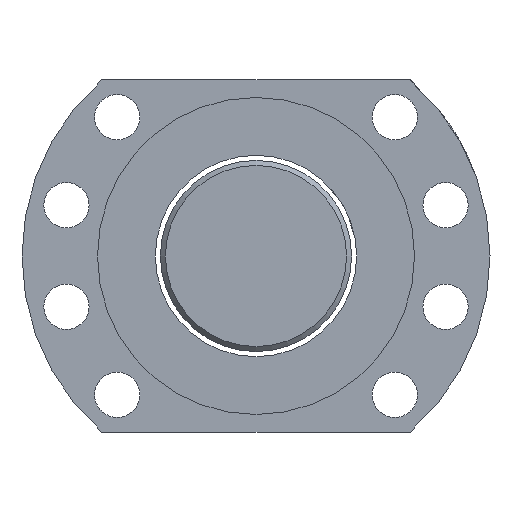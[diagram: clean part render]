
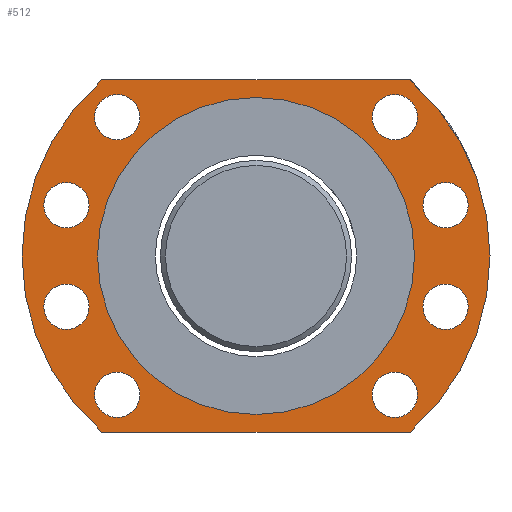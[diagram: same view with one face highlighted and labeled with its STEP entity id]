
A CAD part, left-side view. The second image highlights one B-rep face of the part: STEP entity #512.
In plain terms, the highlighted planar face has unit normal (-1, 0, 0).
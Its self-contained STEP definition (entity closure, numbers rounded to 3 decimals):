
#61=LINE('',#864,#69);
#64=LINE('',#870,#72);
#69=VECTOR('',#706,1000.);
#72=VECTOR('',#711,1000.);
#81=PLANE('',#602);
#156=ORIENTED_EDGE('',*,*,#229,.T.);
#157=ORIENTED_EDGE('',*,*,#231,.F.);
#158=ORIENTED_EDGE('',*,*,#235,.T.);
#159=ORIENTED_EDGE('',*,*,#253,.F.);
#160=ORIENTED_EDGE('',*,*,#250,.T.);
#161=ORIENTED_EDGE('',*,*,#247,.T.);
#162=ORIENTED_EDGE('',*,*,#217,.T.);
#163=ORIENTED_EDGE('',*,*,#244,.T.);
#164=ORIENTED_EDGE('',*,*,#243,.F.);
#165=ORIENTED_EDGE('',*,*,#241,.F.);
#166=ORIENTED_EDGE('',*,*,#239,.F.);
#167=ORIENTED_EDGE('',*,*,#237,.T.);
#168=ORIENTED_EDGE('',*,*,#233,.T.);
#217=EDGE_CURVE('',#271,#272,#316,.T.);
#229=EDGE_CURVE('',#283,#283,#322,.T.);
#231=EDGE_CURVE('',#285,#285,#324,.T.);
#233=EDGE_CURVE('',#287,#287,#326,.T.);
#235=EDGE_CURVE('',#289,#289,#328,.T.);
#237=EDGE_CURVE('',#291,#291,#330,.T.);
#239=EDGE_CURVE('',#293,#293,#332,.T.);
#241=EDGE_CURVE('',#295,#295,#334,.T.);
#243=EDGE_CURVE('',#297,#297,#336,.T.);
#244=EDGE_CURVE('',#272,#298,#61,.T.);
#247=EDGE_CURVE('',#300,#271,#64,.T.);
#250=EDGE_CURVE('',#298,#300,#337,.T.);
#253=EDGE_CURVE('',#303,#303,#340,.T.);
#271=VERTEX_POINT('',#782);
#272=VERTEX_POINT('',#783);
#283=VERTEX_POINT('',#827);
#285=VERTEX_POINT('',#832);
#287=VERTEX_POINT('',#837);
#289=VERTEX_POINT('',#842);
#291=VERTEX_POINT('',#847);
#293=VERTEX_POINT('',#852);
#295=VERTEX_POINT('',#857);
#297=VERTEX_POINT('',#862);
#298=VERTEX_POINT('',#865);
#300=VERTEX_POINT('',#871);
#303=VERTEX_POINT('',#882);
#316=CIRCLE('',#561,46.5);
#322=CIRCLE('',#569,4.5);
#324=CIRCLE('',#572,4.5);
#326=CIRCLE('',#575,4.5);
#328=CIRCLE('',#578,4.5);
#330=CIRCLE('',#581,4.5);
#332=CIRCLE('',#584,4.5);
#334=CIRCLE('',#587,4.5);
#336=CIRCLE('',#590,4.5);
#337=CIRCLE('',#594,46.5);
#340=CIRCLE('',#598,31.5);
#382=EDGE_LOOP('',(#156));
#383=EDGE_LOOP('',(#157));
#384=EDGE_LOOP('',(#158));
#385=EDGE_LOOP('',(#159));
#386=EDGE_LOOP('',(#160,#161,#162,#163));
#387=EDGE_LOOP('',(#164));
#388=EDGE_LOOP('',(#165));
#389=EDGE_LOOP('',(#166));
#390=EDGE_LOOP('',(#167));
#391=EDGE_LOOP('',(#168));
#453=FACE_BOUND('',#382,.T.);
#454=FACE_BOUND('',#383,.T.);
#455=FACE_BOUND('',#384,.T.);
#456=FACE_BOUND('',#385,.T.);
#457=FACE_BOUND('',#386,.T.);
#458=FACE_BOUND('',#387,.T.);
#459=FACE_BOUND('',#388,.T.);
#460=FACE_BOUND('',#389,.T.);
#461=FACE_BOUND('',#390,.T.);
#462=FACE_BOUND('',#391,.T.);
#512=ADVANCED_FACE('',(#453,#454,#455,#456,#457,#458,#459,#460,#461,#462),
#81,.T.);
#561=AXIS2_PLACEMENT_3D('',#781,#642,#643);
#569=AXIS2_PLACEMENT_3D('',#826,#660,#661);
#572=AXIS2_PLACEMENT_3D('',#831,#666,#667);
#575=AXIS2_PLACEMENT_3D('',#836,#672,#673);
#578=AXIS2_PLACEMENT_3D('',#841,#678,#679);
#581=AXIS2_PLACEMENT_3D('',#846,#684,#685);
#584=AXIS2_PLACEMENT_3D('',#851,#690,#691);
#587=AXIS2_PLACEMENT_3D('',#856,#696,#697);
#590=AXIS2_PLACEMENT_3D('',#861,#702,#703);
#594=AXIS2_PLACEMENT_3D('',#876,#716,#717);
#598=AXIS2_PLACEMENT_3D('',#881,#724,#725);
#602=AXIS2_PLACEMENT_3D('',#888,#732,#733);
#642=DIRECTION('',(-1.,0.,0.));
#643=DIRECTION('',(0.,0.,-1.));
#660=DIRECTION('',(1.,0.,0.));
#661=DIRECTION('',(0.,0.,1.));
#666=DIRECTION('',(-1.,0.,0.));
#667=DIRECTION('',(0.,0.,1.));
#672=DIRECTION('',(1.,0.,0.));
#673=DIRECTION('',(0.,0.,1.));
#678=DIRECTION('',(1.,0.,0.));
#679=DIRECTION('',(0.,0.,1.));
#684=DIRECTION('',(1.,0.,0.));
#685=DIRECTION('',(0.,0.,1.));
#690=DIRECTION('',(-1.,0.,0.));
#691=DIRECTION('',(0.,0.,1.));
#696=DIRECTION('',(-1.,0.,0.));
#697=DIRECTION('',(0.,0.,1.));
#702=DIRECTION('',(-1.,0.,0.));
#703=DIRECTION('',(0.,0.,1.));
#706=DIRECTION('',(0.,1.,0.));
#711=DIRECTION('',(0.,-1.,0.));
#716=DIRECTION('',(-1.,0.,0.));
#717=DIRECTION('',(0.,0.,-1.));
#724=DIRECTION('',(-1.,0.,0.));
#725=DIRECTION('',(0.,0.,-1.));
#732=DIRECTION('',(-1.,0.,0.));
#733=DIRECTION('',(0.,0.,1.));
#781=CARTESIAN_POINT('',(-119.931,-59.39,1.143));
#782=CARTESIAN_POINT('',(-119.931,-90.004,-33.857));
#783=CARTESIAN_POINT('',(-119.931,-90.004,36.143));
#826=CARTESIAN_POINT('',(-119.931,-86.967,28.72));
#827=CARTESIAN_POINT('',(-119.931,-86.967,33.22));
#831=CARTESIAN_POINT('',(-119.931,-31.812,28.72));
#832=CARTESIAN_POINT('',(-119.931,-31.812,33.22));
#836=CARTESIAN_POINT('',(-119.931,-97.061,11.237));
#837=CARTESIAN_POINT('',(-119.931,-97.061,15.737));
#841=CARTESIAN_POINT('',(-119.931,-97.061,-8.951));
#842=CARTESIAN_POINT('',(-119.931,-97.061,-4.451));
#846=CARTESIAN_POINT('',(-119.931,-86.967,-26.434));
#847=CARTESIAN_POINT('',(-119.931,-86.967,-21.934));
#851=CARTESIAN_POINT('',(-119.931,-31.812,-26.434));
#852=CARTESIAN_POINT('',(-119.931,-31.812,-21.934));
#856=CARTESIAN_POINT('',(-119.931,-21.718,11.237));
#857=CARTESIAN_POINT('',(-119.931,-21.718,15.737));
#861=CARTESIAN_POINT('',(-119.931,-21.718,-8.951));
#862=CARTESIAN_POINT('',(-119.931,-21.718,-4.451));
#864=CARTESIAN_POINT('',(-119.931,-90.004,36.143));
#865=CARTESIAN_POINT('',(-119.931,-28.775,36.143));
#870=CARTESIAN_POINT('',(-119.931,-28.775,-33.857));
#871=CARTESIAN_POINT('',(-119.931,-28.775,-33.857));
#876=CARTESIAN_POINT('',(-119.931,-59.39,1.143));
#881=CARTESIAN_POINT('',(-119.931,-59.39,1.143));
#882=CARTESIAN_POINT('',(-119.931,-59.39,-30.357));
#888=CARTESIAN_POINT('',(-119.931,-59.39,1.143));
